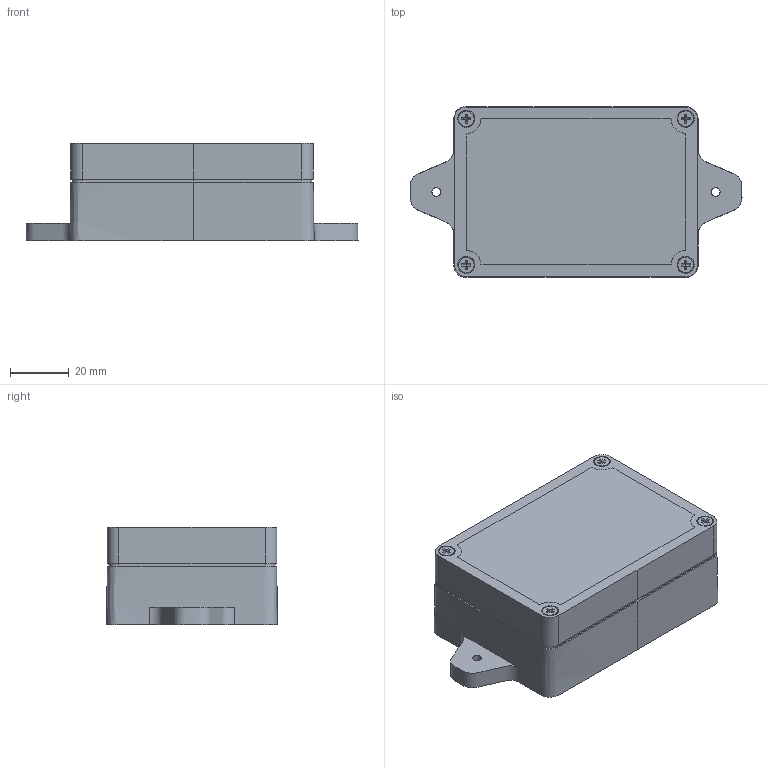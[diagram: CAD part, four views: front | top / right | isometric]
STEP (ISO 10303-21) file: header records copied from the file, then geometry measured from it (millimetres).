
FILE_DESCRIPTION(/* description */ (''),/* implementation_level */ '2;1');
FILE_NAME(/* name */ 'SMALLW~1',/* time_stamp */ '2018-12-30T17:58:46+01:00',/* author */ (''),/* organization */ (''),/* preprocessor_version */ 'ST-DEVELOPER v15',/* originating_system */ '',/* authorisation */ '');
FILE_SCHEMA (('AUTOMOTIVE_DESIGN'));
Length unit declared in the file: millimetre
Products named in the file (1): Document
Bounding box: 113.5 x 58.35 x 33.23 mm (x, y, z)
Volume: 48916.4 mm3; surface area: 45545.5 mm2
Topology: 3 solids, 11 shells, 1620 faces, 4445 edges, 2811 vertices
Faces by surface type: bspline 815, plane 805
Entity records: 96425 total; most frequent: CARTESIAN_POINT 69096, ORIENTED_EDGE 8736, EDGE_CURVE 4404, B_SPLINE_CURVE_WITH_KNOTS 3708, VERTEX_POINT 2811, EDGE_LOOP 1679, ADVANCED_FACE 1620, FACE_OUTER_BOUND 1620
